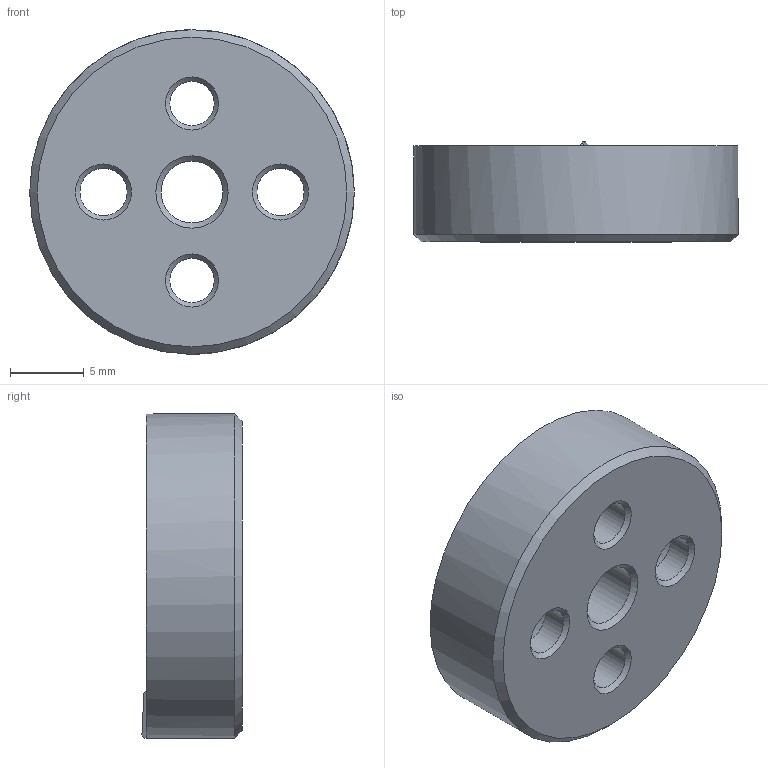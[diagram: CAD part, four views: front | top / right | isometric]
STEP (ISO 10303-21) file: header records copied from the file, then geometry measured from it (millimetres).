
FILE_DESCRIPTION( ( 'STEP AP203' ), '1' );
FILE_NAME( 'C:/Temp/Ganter_Step_05_03_2020/data/3_2/gn187_4/gn187_4_st/Serrated locking plate GN 187.4-22-60-B-ST.stp', '2020-03-13T05:25:36', ( 'License CC BY-ND 4.0' ), ( 'CADENAS' ), ' ', 'PARTsolutions', ' ' );
FILE_SCHEMA( ( 'CONFIG_CONTROL_DESIGN' ) );
Length unit declared in the file: millimetre
Products named in the file (1): _Serrated locking plate GN 187.4-22-60-B-ST
Bounding box: 22 x 6.79 x 22 mm (x, y, z)
Volume: 1875.3 mm3; surface area: 1491.5 mm2
Topology: 1 solids, 1 shells, 33 faces, 85 edges, 54 vertices
Faces by surface type: cone 12, cylinder 12, plane 9
Full cylindrical faces by diameter (mm): 3 x2, 3.2 x2, 4.2 x1, 6 x2, 22 x1
Entity records: 1044 total; most frequent: CARTESIAN_POINT 250, DIRECTION 166, ORIENTED_EDGE 128, AXIS2_PLACEMENT_3D 78, EDGE_CURVE 64, EDGE_LOOP 60, VERTEX_POINT 50, FACE_OUTER_BOUND 41
